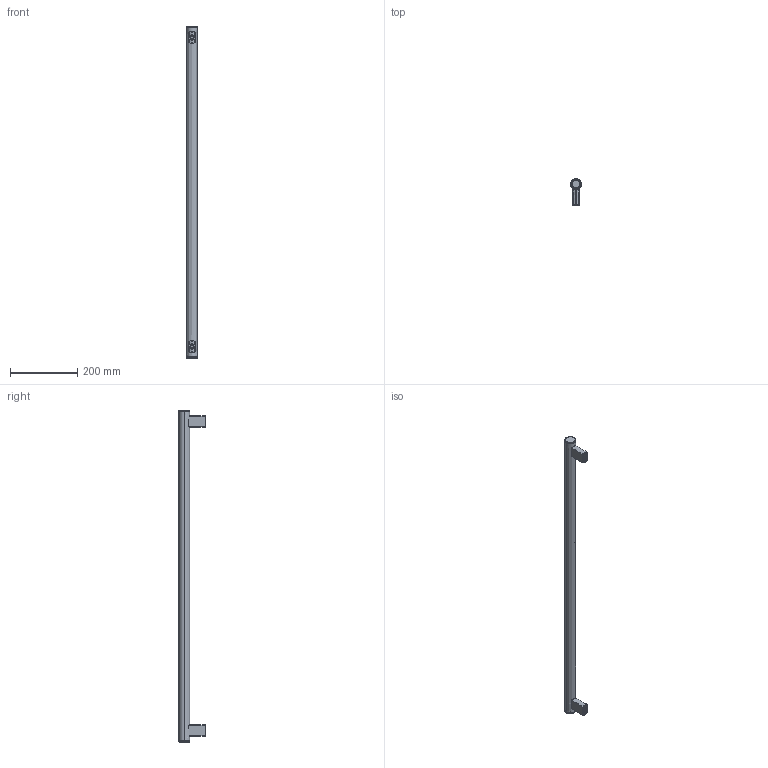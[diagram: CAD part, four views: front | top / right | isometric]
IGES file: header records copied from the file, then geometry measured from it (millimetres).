
Start section: SolidWorks IGES file using analytic representation for surfaces
Global section: file name: C:\Documents and Settings\Deathkiller\桌面\3D IGES\U型把手\MS-737-2 sus\p=918.IGS; native system: SolidWorks 2006 by SolidWorks Corporation; preprocessor: SolidWorks 2006 by SolidWorks Corporation; author: Deathkiller; date: 080624.131559; units: millimetre
Bounding box: 31.8 x 77.9 x 986 mm (x, y, z)
Surface area: 214826.8 mm2 (no closed solid volume)
Topology: 0 solids, 0 shells, 190 faces, 5022 edges, 5022 vertices
Faces by surface type: revolution 142, bspline 48
